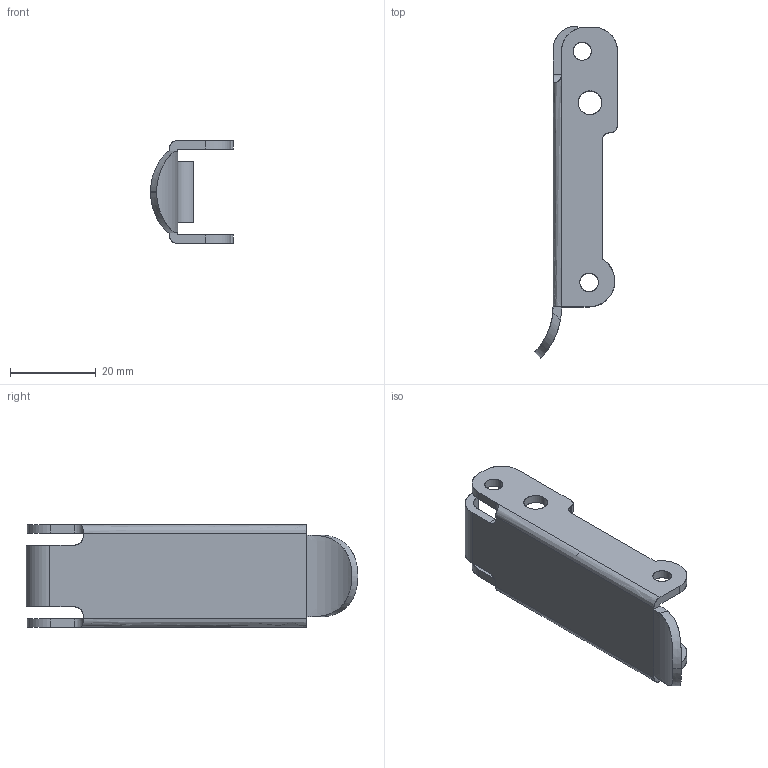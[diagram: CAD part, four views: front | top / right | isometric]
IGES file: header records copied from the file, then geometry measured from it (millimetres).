
Start section: SolidWorks IGES FILE using analytic representation for surfaces
Global section: file name: C:\Documents and Settings\lecoutey\Bureau\GR 57 E\GO 32.010.10.IGS; native system: SolidWorks 2004 by SolidWorks Corporation; preprocessor: Version 5.3; author: lecoutey; date: 050330.132438; units: millimetre
Bounding box: 19.3 x 77.41 x 24 mm (x, y, z)
Surface area: 6647.2 mm2 (no closed solid volume)
Topology: 0 solids, 0 shells, 89 faces, 1168 edges, 1138 vertices
Faces by surface type: revolution 64, bspline 25
